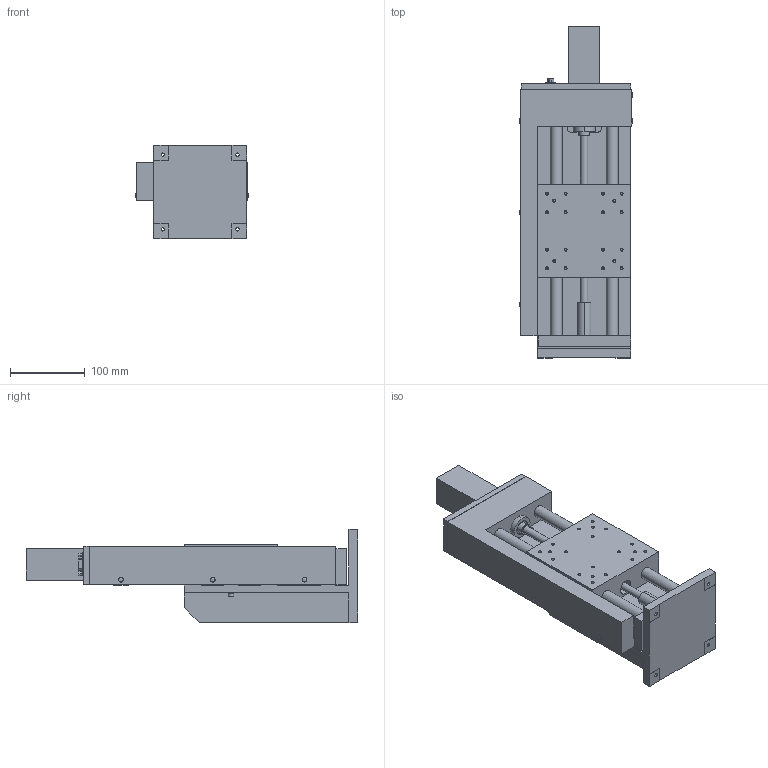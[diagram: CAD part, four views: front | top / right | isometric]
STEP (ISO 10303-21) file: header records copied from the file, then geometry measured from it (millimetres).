
FILE_DESCRIPTION (( 'STEP AP203' ), '1' );
FILE_NAME ('ALZ-115-E2P.STEP', '2008-03-11T09:33:01', ( '' ), ( '' ), 'SwSTEP 2.0', 'SolidWorks 2007', '' );
FILE_SCHEMA (( 'CONFIG_CONTROL_DESIGN' ));
Length unit declared in the file: millimetre
Products named in the file (3): ALZ-115-E2P; ALZ-115-E2P-2_蹬怮椔; ALZ-115-E2P-1_蹬怮椔
Assembly tree (2 placements, depth 2):
  ALZ-115-E2P
    ALZ-115-E2P-2_蹬怮椔
    ALZ-115-E2P-1_蹬怮椔
Bounding box: 152.65 x 444.5 x 125 mm (x, y, z)
Volume: 2725545.9 mm3; surface area: 428800.5 mm2
Topology: 2 solids, 8 shells, 539 faces, 1341 edges, 893 vertices
Faces by surface type: cylinder 282, plane 242, cone 10, bspline 5
Entity records: 19454 total; most frequent: CARTESIAN_POINT 5749, DIRECTION 2839, ORIENTED_EDGE 2682, EDGE_CURVE 1341, AXIS2_PLACEMENT_3D 1033, VERTEX_POINT 893, VECTOR 773, LINE 773
